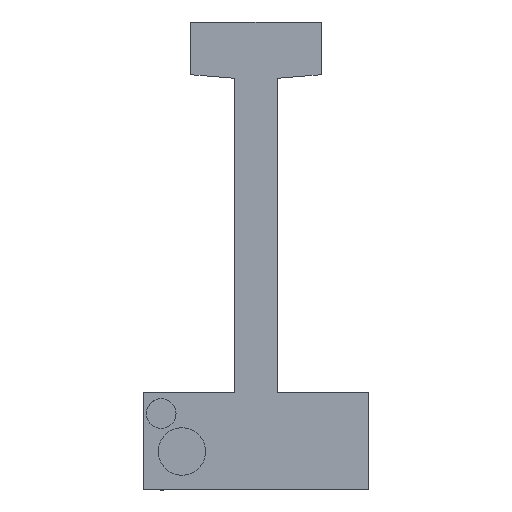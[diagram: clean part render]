
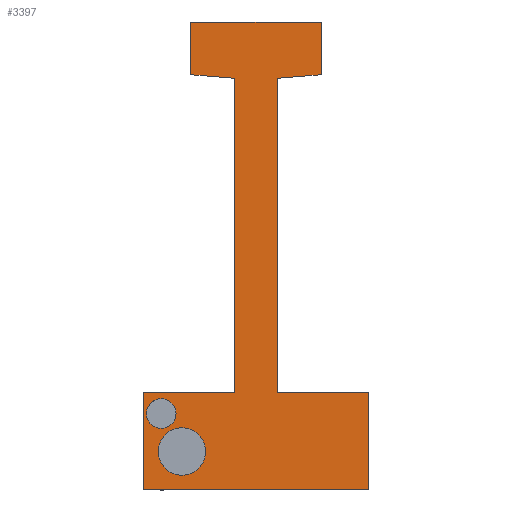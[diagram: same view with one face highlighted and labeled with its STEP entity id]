
A CAD part, front view. The second image highlights one B-rep face of the part: STEP entity #3397.
In plain terms, the highlighted planar face has unit normal (0, -1, 0).
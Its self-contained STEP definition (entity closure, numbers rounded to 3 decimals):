
#21 = LINE ( 'NONE', #2141, #3115 ) ;
#168 = VECTOR ( 'NONE', #1528, 1000. ) ;
#456 = DIRECTION ( 'NONE',  ( -0.997, 0., -0.081 ) ) ;
#729 = DIRECTION ( 'NONE',  ( 0., 0., 1. ) ) ;
#768 = VECTOR ( 'NONE', #2672, 1000. ) ;
#778 = ORIENTED_EDGE ( 'NONE', *, *, #5943, .F. ) ;
#843 = CARTESIAN_POINT ( 'NONE',  ( 3.6, 0., -9.5 ) ) ;
#877 = DIRECTION ( 'NONE',  ( 0., -1., 0. ) ) ;
#902 = CARTESIAN_POINT ( 'NONE',  ( -3.6, 0., -9.5 ) ) ;
#926 = LINE ( 'NONE', #6817, #168 ) ;
#940 = CARTESIAN_POINT ( 'NONE',  ( -16., 0., -63.6 ) ) ;
#942 = EDGE_CURVE ( 'NONE', #5316, #1123, #21, .T. ) ;
#966 = EDGE_CURVE ( 'NONE', #1763, #1794, #6126, .T. ) ;
#973 = DIRECTION ( 'NONE',  ( 0., 0., 1. ) ) ;
#1028 = DIRECTION ( 'NONE',  ( 0., -1., 0. ) ) ;
#1042 = ORIENTED_EDGE ( 'NONE', *, *, #1493, .F. ) ;
#1043 = EDGE_CURVE ( 'NONE', #1123, #5653, #2509, .T. ) ;
#1109 = PLANE ( 'NONE',  #3606 ) ;
#1123 = VERTEX_POINT ( 'NONE', #3265 ) ;
#1259 = CARTESIAN_POINT ( 'NONE',  ( -3.6, 0., -62.6 ) ) ;
#1413 = EDGE_CURVE ( 'NONE', #3619, #5316, #4388, .T. ) ;
#1456 = VERTEX_POINT ( 'NONE', #2553 ) ;
#1493 = EDGE_CURVE ( 'NONE', #4643, #5642, #2610, .T. ) ;
#1528 = DIRECTION ( 'NONE',  ( 1., 0., 0. ) ) ;
#1591 = ORIENTED_EDGE ( 'NONE', *, *, #2385, .F. ) ;
#1612 = CARTESIAN_POINT ( 'NONE',  ( -19., 0., -79. ) ) ;
#1620 = AXIS2_PLACEMENT_3D ( 'NONE', #3971, #5595, #4523 ) ;
#1677 = CIRCLE ( 'NONE', #4688, 4. ) ;
#1688 = FACE_OUTER_BOUND ( 'NONE', #4790, .T. ) ;
#1750 = ORIENTED_EDGE ( 'NONE', *, *, #2647, .F. ) ;
#1763 = VERTEX_POINT ( 'NONE', #3548 ) ;
#1794 = VERTEX_POINT ( 'NONE', #940 ) ;
#1854 = EDGE_CURVE ( 'NONE', #2865, #6417, #2891, .T. ) ;
#1856 = CARTESIAN_POINT ( 'NONE',  ( 11., 0., -8.9 ) ) ;
#1956 = VERTEX_POINT ( 'NONE', #2024 ) ;
#1979 = AXIS2_PLACEMENT_3D ( 'NONE', #4073, #877, #6725 ) ;
#2012 = CARTESIAN_POINT ( 'NONE',  ( 19., 0., -79. ) ) ;
#2024 = CARTESIAN_POINT ( 'NONE',  ( -12.5, 0., -68.5 ) ) ;
#2026 = CARTESIAN_POINT ( 'NONE',  ( 3.6, 0., -62.6 ) ) ;
#2029 = LINE ( 'NONE', #5957, #3348 ) ;
#2093 = CARTESIAN_POINT ( 'NONE',  ( 0., 0., 0. ) ) ;
#2141 = CARTESIAN_POINT ( 'NONE',  ( 3.6, 0., -62.6 ) ) ;
#2168 = ORIENTED_EDGE ( 'NONE', *, *, #1413, .F. ) ;
#2354 = LINE ( 'NONE', #3519, #6658 ) ;
#2373 = ORIENTED_EDGE ( 'NONE', *, *, #3048, .F. ) ;
#2385 = EDGE_CURVE ( 'NONE', #3232, #2865, #2354, .T. ) ;
#2418 = VECTOR ( 'NONE', #973, 1000. ) ;
#2468 = DIRECTION ( 'NONE',  ( 0., 0., 1. ) ) ;
#2478 = DIRECTION ( 'NONE',  ( 0., 0., -1. ) ) ;
#2509 = LINE ( 'NONE', #5411, #768 ) ;
#2529 = CARTESIAN_POINT ( 'NONE',  ( -19., 0., -79. ) ) ;
#2553 = CARTESIAN_POINT ( 'NONE',  ( -19., 0., -62.6 ) ) ;
#2571 = DIRECTION ( 'NONE',  ( 0., 0., -1. ) ) ;
#2584 = EDGE_CURVE ( 'NONE', #2775, #4643, #6730, .T. ) ;
#2586 = VECTOR ( 'NONE', #456, 1000. ) ;
#2610 = LINE ( 'NONE', #3520, #3292 ) ;
#2647 = EDGE_CURVE ( 'NONE', #1956, #2696, #5965, .T. ) ;
#2672 = DIRECTION ( 'NONE',  ( 0., 0., -1. ) ) ;
#2696 = VERTEX_POINT ( 'NONE', #6112 ) ;
#2727 = VECTOR ( 'NONE', #3083, 1000. ) ;
#2775 = VERTEX_POINT ( 'NONE', #3530 ) ;
#2804 = CARTESIAN_POINT ( 'NONE',  ( 3.6, 0., -9.5 ) ) ;
#2865 = VERTEX_POINT ( 'NONE', #3093 ) ;
#2891 = LINE ( 'NONE', #4697, #2727 ) ;
#2950 = CARTESIAN_POINT ( 'NONE',  ( -11., 0., -8.9 ) ) ;
#3048 = EDGE_CURVE ( 'NONE', #6136, #1456, #3946, .T. ) ;
#3054 = ORIENTED_EDGE ( 'NONE', *, *, #3542, .F. ) ;
#3083 = DIRECTION ( 'NONE',  ( 0., 0., -1. ) ) ;
#3089 = ORIENTED_EDGE ( 'NONE', *, *, #4747, .F. ) ;
#3093 = CARTESIAN_POINT ( 'NONE',  ( 11., 0., 0. ) ) ;
#3115 = VECTOR ( 'NONE', #5890, 1000. ) ;
#3151 = DIRECTION ( 'NONE',  ( 0., -1., 0. ) ) ;
#3152 = EDGE_LOOP ( 'NONE', ( #1750, #6941 ) ) ;
#3232 = VERTEX_POINT ( 'NONE', #3559 ) ;
#3265 = CARTESIAN_POINT ( 'NONE',  ( 19., 0., -62.6 ) ) ;
#3292 = VECTOR ( 'NONE', #6233, 1000. ) ;
#3348 = VECTOR ( 'NONE', #5935, 1000. ) ;
#3397 = ADVANCED_FACE ( 'NONE', ( #5125, #5623, #1688 ), #1109, .F. ) ;
#3519 = CARTESIAN_POINT ( 'NONE',  ( 0., 0., 0. ) ) ;
#3520 = CARTESIAN_POINT ( 'NONE',  ( -3.6, 0., -9.5 ) ) ;
#3530 = CARTESIAN_POINT ( 'NONE',  ( -3.6, 0., -62.6 ) ) ;
#3542 = EDGE_CURVE ( 'NONE', #5653, #6136, #2029, .T. ) ;
#3548 = CARTESIAN_POINT ( 'NONE',  ( -16., 0., -68.6 ) ) ;
#3559 = CARTESIAN_POINT ( 'NONE',  ( -11., 0., 0. ) ) ;
#3606 = AXIS2_PLACEMENT_3D ( 'NONE', #2093, #4867, #4808 ) ;
#3619 = VERTEX_POINT ( 'NONE', #2804 ) ;
#3946 = LINE ( 'NONE', #1612, #2418 ) ;
#3954 = AXIS2_PLACEMENT_3D ( 'NONE', #5873, #3151, #2571 ) ;
#3971 = CARTESIAN_POINT ( 'NONE',  ( -12.5, 0., -72.5 ) ) ;
#4045 = ORIENTED_EDGE ( 'NONE', *, *, #2584, .F. ) ;
#4073 = CARTESIAN_POINT ( 'NONE',  ( -16., 0., -66.1 ) ) ;
#4137 = CARTESIAN_POINT ( 'NONE',  ( -12.5, 0., -72.5 ) ) ;
#4388 = LINE ( 'NONE', #843, #4978 ) ;
#4523 = DIRECTION ( 'NONE',  ( 0., 0., 1. ) ) ;
#4562 = VECTOR ( 'NONE', #729, 1000. ) ;
#4643 = VERTEX_POINT ( 'NONE', #902 ) ;
#4688 = AXIS2_PLACEMENT_3D ( 'NONE', #4137, #1028, #5198 ) ;
#4697 = CARTESIAN_POINT ( 'NONE',  ( 11., 0., 0. ) ) ;
#4747 = EDGE_CURVE ( 'NONE', #6417, #3619, #6891, .T. ) ;
#4751 = ORIENTED_EDGE ( 'NONE', *, *, #6094, .F. ) ;
#4773 = EDGE_CURVE ( 'NONE', #2696, #1956, #1677, .T. ) ;
#4790 = EDGE_LOOP ( 'NONE', ( #1591, #778, #1042, #4045, #4751, #2373, #3054, #5831, #6129, #2168, #3089, #6061 ) ) ;
#4808 = DIRECTION ( 'NONE',  ( 0., 0., 1. ) ) ;
#4867 = DIRECTION ( 'NONE',  ( 0., 1., 0. ) ) ;
#4883 = LINE ( 'NONE', #2950, #5121 ) ;
#4978 = VECTOR ( 'NONE', #2478, 1000. ) ;
#5121 = VECTOR ( 'NONE', #2468, 1000. ) ;
#5125 = FACE_BOUND ( 'NONE', #6931, .T. ) ;
#5198 = DIRECTION ( 'NONE',  ( 0., 0., 1. ) ) ;
#5316 = VERTEX_POINT ( 'NONE', #2026 ) ;
#5411 = CARTESIAN_POINT ( 'NONE',  ( 19., 0., -62.6 ) ) ;
#5525 = CIRCLE ( 'NONE', #1979, 2.5 ) ;
#5595 = DIRECTION ( 'NONE',  ( 0., -1., 0. ) ) ;
#5623 = FACE_BOUND ( 'NONE', #3152, .T. ) ;
#5642 = VERTEX_POINT ( 'NONE', #5803 ) ;
#5643 = DIRECTION ( 'NONE',  ( 1., 0., 0. ) ) ;
#5653 = VERTEX_POINT ( 'NONE', #2012 ) ;
#5760 = CARTESIAN_POINT ( 'NONE',  ( 11., 0., -8.9 ) ) ;
#5803 = CARTESIAN_POINT ( 'NONE',  ( -11., 0., -8.9 ) ) ;
#5831 = ORIENTED_EDGE ( 'NONE', *, *, #1043, .F. ) ;
#5873 = CARTESIAN_POINT ( 'NONE',  ( -16., 0., -66.1 ) ) ;
#5890 = DIRECTION ( 'NONE',  ( 1., 0., 0. ) ) ;
#5935 = DIRECTION ( 'NONE',  ( -1., 0., 0. ) ) ;
#5943 = EDGE_CURVE ( 'NONE', #5642, #3232, #4883, .T. ) ;
#5957 = CARTESIAN_POINT ( 'NONE',  ( 19., 0., -79. ) ) ;
#5965 = CIRCLE ( 'NONE', #1620, 4. ) ;
#6061 = ORIENTED_EDGE ( 'NONE', *, *, #1854, .F. ) ;
#6094 = EDGE_CURVE ( 'NONE', #1456, #2775, #926, .T. ) ;
#6112 = CARTESIAN_POINT ( 'NONE',  ( -12.5, 0., -76.5 ) ) ;
#6126 = CIRCLE ( 'NONE', #3954, 2.5 ) ;
#6129 = ORIENTED_EDGE ( 'NONE', *, *, #942, .F. ) ;
#6136 = VERTEX_POINT ( 'NONE', #2529 ) ;
#6233 = DIRECTION ( 'NONE',  ( -0.997, 0., 0.081 ) ) ;
#6325 = ORIENTED_EDGE ( 'NONE', *, *, #966, .F. ) ;
#6417 = VERTEX_POINT ( 'NONE', #1856 ) ;
#6595 = EDGE_CURVE ( 'NONE', #1794, #1763, #5525, .T. ) ;
#6658 = VECTOR ( 'NONE', #5643, 1000. ) ;
#6685 = ORIENTED_EDGE ( 'NONE', *, *, #6595, .F. ) ;
#6725 = DIRECTION ( 'NONE',  ( 0., 0., -1. ) ) ;
#6730 = LINE ( 'NONE', #1259, #4562 ) ;
#6817 = CARTESIAN_POINT ( 'NONE',  ( -19., 0., -62.6 ) ) ;
#6891 = LINE ( 'NONE', #5760, #2586 ) ;
#6931 = EDGE_LOOP ( 'NONE', ( #6325, #6685 ) ) ;
#6941 = ORIENTED_EDGE ( 'NONE', *, *, #4773, .F. ) ;
